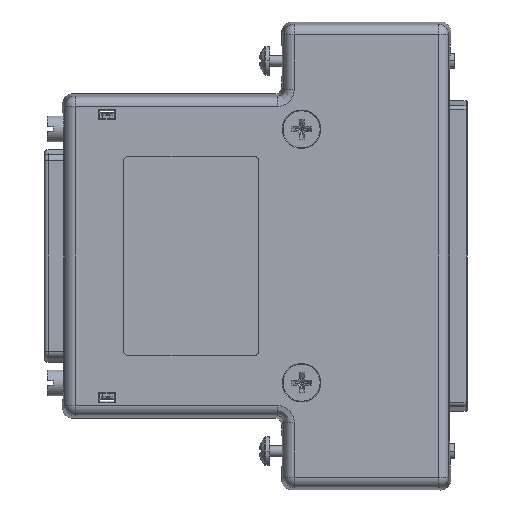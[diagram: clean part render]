
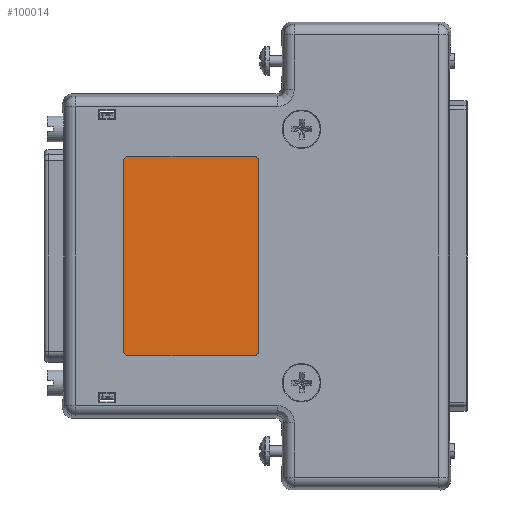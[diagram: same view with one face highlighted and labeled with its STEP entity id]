
A CAD part, left-side view. The second image highlights one B-rep face of the part: STEP entity #100014.
In plain terms, the highlighted planar face has unit normal (-1, 0, 0).
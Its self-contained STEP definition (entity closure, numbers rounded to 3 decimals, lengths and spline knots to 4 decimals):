
#25835=CARTESIAN_POINT('',(-0.0905,0.91,0.5525));
#25836=DIRECTION('',(-1.,0.,0.));
#25837=DIRECTION('',(0.,0.,1.));
#25838=AXIS2_PLACEMENT_3D('',#25835,#25836,#25837);
#25840=DIRECTION('',(0.,1.,0.));
#25841=VECTOR('',#25840,0.73);
#25842=CARTESIAN_POINT('',(-0.0905,0.18,0.5825));
#25843=LINE('',#25842,#25841);
#25844=CARTESIAN_POINT('',(-0.0905,0.18,0.5525));
#25845=DIRECTION('',(-1.,0.,0.));
#25846=DIRECTION('',(0.,-1.,0.));
#25847=AXIS2_PLACEMENT_3D('',#25844,#25845,#25846);
#25849=DIRECTION('',(0.,0.,1.));
#25850=VECTOR('',#25849,1.105);
#25851=CARTESIAN_POINT('',(-0.0905,0.15,-0.5525));
#25852=LINE('',#25851,#25850);
#25853=CARTESIAN_POINT('',(-0.0905,0.18,-0.5525));
#25854=DIRECTION('',(-1.,0.,0.));
#25855=DIRECTION('',(0.,0.,-1.));
#25856=AXIS2_PLACEMENT_3D('',#25853,#25854,#25855);
#25858=DIRECTION('',(0.,-1.,0.));
#25859=VECTOR('',#25858,0.73);
#25860=CARTESIAN_POINT('',(-0.0905,0.91,-0.5825));
#25861=LINE('',#25860,#25859);
#25862=CARTESIAN_POINT('',(-0.0905,0.91,-0.5525));
#25863=DIRECTION('',(-1.,0.,0.));
#25864=DIRECTION('',(0.,1.,0.));
#25865=AXIS2_PLACEMENT_3D('',#25862,#25863,#25864);
#25867=DIRECTION('',(0.,0.,-1.));
#25868=VECTOR('',#25867,1.105);
#25869=CARTESIAN_POINT('',(-0.0905,0.94,0.5525));
#25870=LINE('',#25869,#25868);
#54721=CARTESIAN_POINT('',(-0.0905,0.91,0.5825));
#54722=CARTESIAN_POINT('',(-0.0905,0.94,0.5525));
#54723=VERTEX_POINT('',#54721);
#54724=VERTEX_POINT('',#54722);
#54725=CARTESIAN_POINT('',(-0.0905,0.94,-0.5525));
#54726=VERTEX_POINT('',#54725);
#54727=CARTESIAN_POINT('',(-0.0905,0.91,-0.5825));
#54728=VERTEX_POINT('',#54727);
#54729=CARTESIAN_POINT('',(-0.0905,0.18,-0.5825));
#54730=VERTEX_POINT('',#54729);
#54731=CARTESIAN_POINT('',(-0.0905,0.15,-0.5525));
#54732=VERTEX_POINT('',#54731);
#54733=CARTESIAN_POINT('',(-0.0905,0.15,0.5525));
#54734=VERTEX_POINT('',#54733);
#54735=CARTESIAN_POINT('',(-0.0905,0.18,0.5825));
#54736=VERTEX_POINT('',#54735);
#99999=CARTESIAN_POINT('',(-0.0905,0.,0.));
#100000=DIRECTION('',(-1.,0.,0.));
#100001=DIRECTION('',(0.,-1.,0.));
#100002=AXIS2_PLACEMENT_3D('',#99999,#100000,#100001);
#100003=PLANE('',#100002);
#100004=ORIENTED_EDGE('',*,*,#99895,.F.);
#100005=ORIENTED_EDGE('',*,*,#99910,.F.);
#100006=ORIENTED_EDGE('',*,*,#99924,.F.);
#100007=ORIENTED_EDGE('',*,*,#99938,.F.);
#100008=ORIENTED_EDGE('',*,*,#99952,.F.);
#100009=ORIENTED_EDGE('',*,*,#99966,.F.);
#100010=ORIENTED_EDGE('',*,*,#99980,.F.);
#100011=ORIENTED_EDGE('',*,*,#99993,.F.);
#100012=EDGE_LOOP('',(#100004,#100005,#100006,#100007,#100008,#100009,#100010,
#100011));
#100013=FACE_OUTER_BOUND('',#100012,.F.);
#100014=ADVANCED_FACE('',(#100013),#100003,.T.);
#25839=CIRCLE('',#25838,0.03);
#25848=CIRCLE('',#25847,0.03);
#25857=CIRCLE('',#25856,0.03);
#25866=CIRCLE('',#25865,0.03);
#99895=EDGE_CURVE('',#54723,#54724,#25839,.T.);
#99910=EDGE_CURVE('',#54736,#54723,#25843,.T.);
#99924=EDGE_CURVE('',#54734,#54736,#25848,.T.);
#99938=EDGE_CURVE('',#54732,#54734,#25852,.T.);
#99952=EDGE_CURVE('',#54730,#54732,#25857,.T.);
#99966=EDGE_CURVE('',#54728,#54730,#25861,.T.);
#99980=EDGE_CURVE('',#54726,#54728,#25866,.T.);
#99993=EDGE_CURVE('',#54724,#54726,#25870,.T.);
